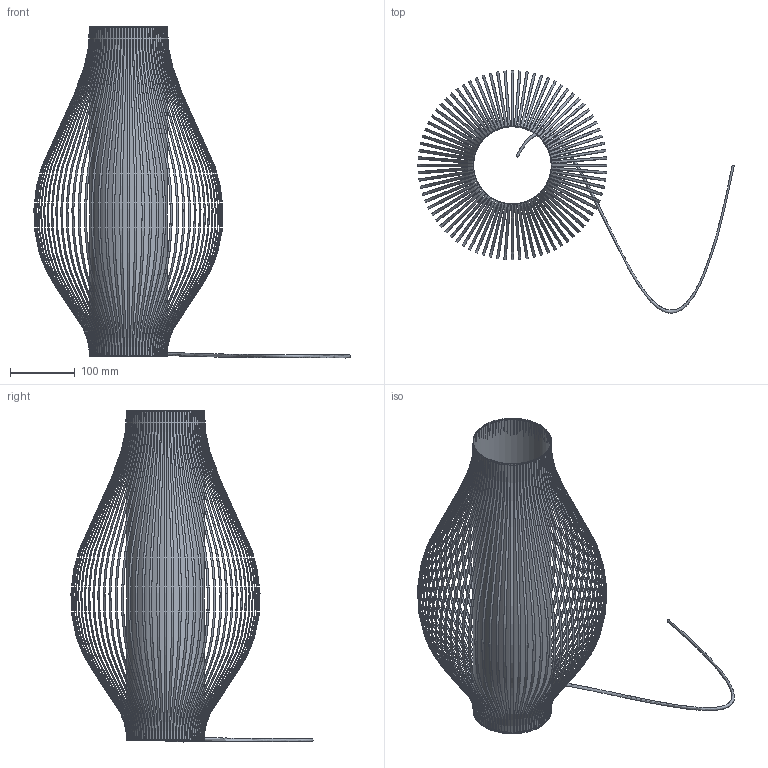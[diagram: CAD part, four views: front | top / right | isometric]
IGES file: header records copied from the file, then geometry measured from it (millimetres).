
Global section: file name: C:\Users\EQUIPO\Desktop\COLECCIONES ACB MODELADAS 3D OK\MURTA\murta-3054-50-e27 (IGES).igs; native system: Rhinoceros ( Oct  8 2013 ); preprocessor: Trout Lake IGES 012 Oct  8 2013; date: 190207.112455; units: millimetre
Bounding box: 488.97 x 374.41 x 513.26 mm (x, y, z)
Surface area: 526197.5 mm2 (no closed solid volume)
Topology: 0 solids, 0 shells, 484 faces, 1939 edges, 1937 vertices
Faces by surface type: bspline 484
